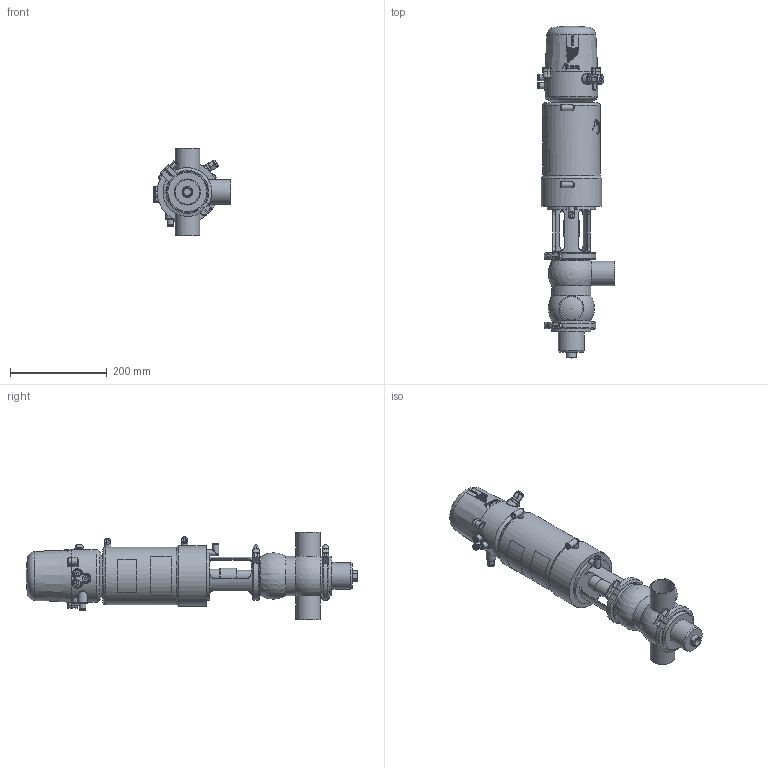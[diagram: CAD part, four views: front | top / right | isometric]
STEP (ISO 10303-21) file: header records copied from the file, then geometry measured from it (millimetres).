
FILE_DESCRIPTION (( 'STEP AP214' ), '1' );
FILE_NAME ('INNOVA P BB-90 W OD 2 & C-TOP S_10.250.16.0013.STEP', '2024-08-09T11:58:13', ( '' ), ( '' ), 'SwSTEP 2.0', 'SolidWorks 2023', '' );
FILE_SCHEMA (( 'AUTOMOTIVE_DESIGN' ));
Length unit declared in the file: millimetre
Products named in the file (7): INNOVA P BB-90 W OD 2 & C-TOP S_10.250.16.0013; 10.250.15.0002_Type P T1; 10.250.15.0003_DN 2"; 10.426.15.0001_C-TOP S - 3 EV; 10.240.15.0001_DN 050; 10.250.15.0001_OD 2"; 10.251.15.0005_OD 2"
Assembly tree (7 placements, depth 2):
  INNOVA P BB-90 W OD 2 & C-TOP S_10.250.16.0013
    10.250.15.0001_OD 2"
    10.250.15.0002_Type P T1
    10.426.15.0001_C-TOP S - 3 EV
    10.251.15.0005_OD 2"
    10.240.15.0001_DN 050  x2
    10.250.15.0003_DN 2"
Bounding box: 161 x 686.5 x 180 mm (x, y, z)
Volume: 5237165.8 mm3; surface area: 406002.9 mm2
Topology: 7 solids, 7 shells, 1207 faces, 2906 edges, 1929 vertices
Faces by surface type: plane 414, cylinder 385, cone 203, bspline 163, torus 33, sphere 9
Full cylindrical faces by diameter (mm): 0.371 x17, 0.512 x16, 0.658 x16, 0.795 x16, 0.94 x15, 1.098 x15, 1.241 x13, 1.382 x13, 1.523 x11, 1.669 x10, 2.201 x1, 4.2 x2, 5 x1, 5.5 x2, 6 x4, 6.15 x3, 8 x5, 10 x1, 10.5 x3, 11 x4, 12.5 x9, 13 x6, 13.5 x2, 16 x1, 17 x3, 20 x2, 22 x2, 23 x1, 28 x1, 31.5 x1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
Entity records: 59143 total; most frequent: CARTESIAN_POINT 27701, ORIENTED_EDGE 4620, DIRECTION 3769, EDGE_CURVE 2310, VERTEX_POINT 1646, EDGE_LOOP 1628, AXIS2_PLACEMENT_3D 1551, FACE_OUTER_BOUND 1376
